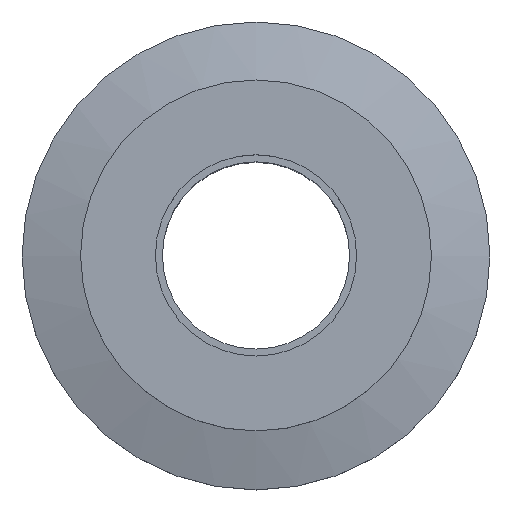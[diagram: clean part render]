
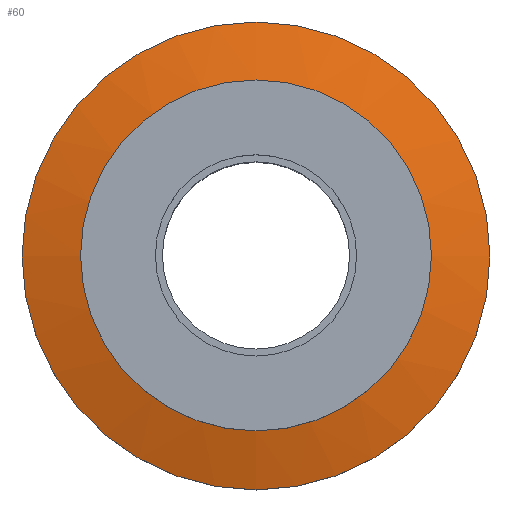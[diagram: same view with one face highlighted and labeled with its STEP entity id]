
A CAD part, top view. The second image highlights one B-rep face of the part: STEP entity #60.
In plain terms, the highlighted conical face has half-angle 75 degrees and reference radius 20 mm.
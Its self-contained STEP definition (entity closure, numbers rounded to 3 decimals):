
#60 = ADVANCED_FACE( '', ( #127, #128 ), #129, .T. );
#127 = FACE_BOUND( '', #190, .T. );
#128 = FACE_OUTER_BOUND( '', #191, .T. );
#129 = CONICAL_SURFACE( '', #192, 20., 1.309 );
#190 = EDGE_LOOP( '', ( #269 ) );
#191 = EDGE_LOOP( '', ( #270 ) );
#192 = AXIS2_PLACEMENT_3D( '', #271, #272, #273 );
#269 = ORIENTED_EDGE( '', *, *, #311, .T. );
#270 = ORIENTED_EDGE( '', *, *, #296, .F. );
#271 = CARTESIAN_POINT( '', ( 0., 0., 3. ) );
#272 = DIRECTION( '', ( 0., 0., -1. ) );
#273 = DIRECTION( '', ( -1., 0., 0. ) );
#296 = EDGE_CURVE( '', #329, #329, #330, .T. );
#311 = EDGE_CURVE( '', #352, #352, #353, .T. );
#329 = VERTEX_POINT( '', #371 );
#330 = CIRCLE( '', #372, 20. );
#352 = VERTEX_POINT( '', #394 );
#353 = CIRCLE( '', #395, 10. );
#371 = CARTESIAN_POINT( '', ( -20., 0., 3. ) );
#372 = AXIS2_PLACEMENT_3D( '', #413, #414, #415 );
#394 = CARTESIAN_POINT( '', ( -10., 0., 5.679 ) );
#395 = AXIS2_PLACEMENT_3D( '', #437, #438, #439 );
#413 = CARTESIAN_POINT( '', ( 0., 0., 3. ) );
#414 = DIRECTION( '', ( 0., 0., -1. ) );
#415 = DIRECTION( '', ( -1., 0., 0. ) );
#437 = CARTESIAN_POINT( '', ( 0., 0., 5.679 ) );
#438 = DIRECTION( '', ( 0., 0., -1. ) );
#439 = DIRECTION( '', ( -1., 0., 0. ) );
